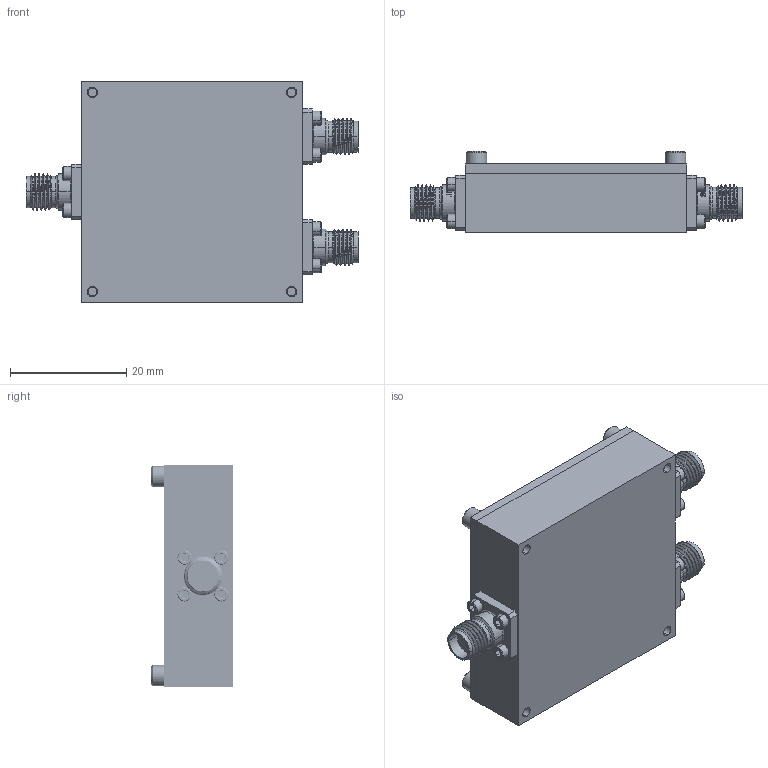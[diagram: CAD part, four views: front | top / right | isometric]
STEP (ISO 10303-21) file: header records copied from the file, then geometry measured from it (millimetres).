
FILE_DESCRIPTION (( 'STEP AP214' ), '1' );
FILE_NAME ('HL9402-JJJ.STEP', '2023-03-04T23:09:18', ( '' ), ( '' ), 'SwSTEP 2.0', 'SolidWorks 2023', '' );
FILE_SCHEMA (( 'AUTOMOTIVE_DESIGN' ));
Length unit declared in the file: millimetre
Products named in the file (6): 100006; 0-80x1-8_Socket Head Cap Screw_92196A052_18-8 Stainless Steel Socket Head Screw_92196A052; 2-56 x 3-16 92196A076_18-8 Stainless Steel Socket Head Screw_92196A076; HL9402-JJJ; 100118; SMA J 4H .375SQ
Assembly tree (21 placements, depth 2):
  HL9402-JJJ
    100118
    100006
    SMA J 4H .375SQ  x3
    0-80x1-8_Socket Head Cap Screw_92196A052_18-8 Stainless Steel Socket Head Screw_92196A052  x12
    2-56 x 3-16 92196A076_18-8 Stainless Steel Socket Head Screw_92196A076  x4
Bounding box: 57.15 x 13.94 x 38.1 mm (x, y, z)
Volume: 11585.8 mm3; surface area: 11200.4 mm2
Topology: 21 solids, 21 shells, 1369 faces, 3396 edges, 2132 vertices
Faces by surface type: cylinder 527, plane 348, cone 318, bspline 126, torus 50
Entity records: 18566 total; most frequent: CARTESIAN_POINT 8402, ORIENTED_EDGE 1802, DIRECTION 1513, EDGE_CURVE 901, AXIS2_PLACEMENT_3D 616, VERTEX_POINT 572, EDGE_LOOP 427, FACE_OUTER_BOUND 362
